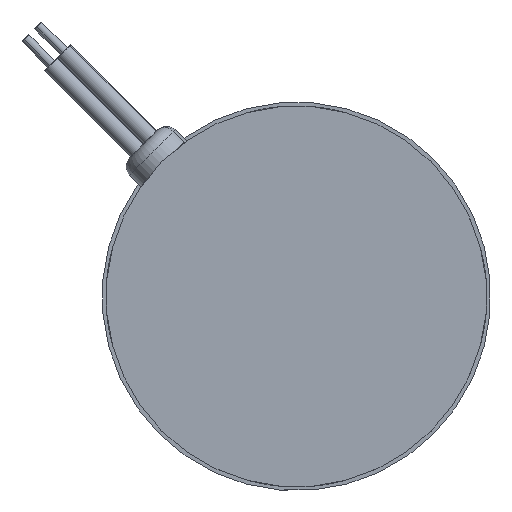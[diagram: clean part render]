
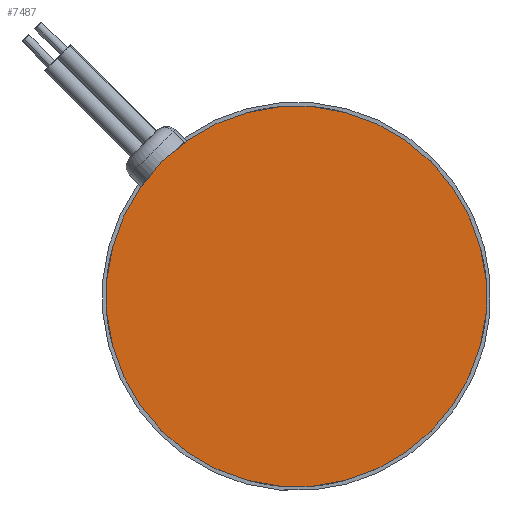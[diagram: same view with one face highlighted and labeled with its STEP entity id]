
A CAD part, left-side view. The second image highlights one B-rep face of the part: STEP entity #7487.
In plain terms, the highlighted planar face has unit normal (-1, 0, 0).
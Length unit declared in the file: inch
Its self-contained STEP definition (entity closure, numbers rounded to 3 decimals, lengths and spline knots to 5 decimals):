
#299 = ORIENTED_EDGE ( 'NONE', *, *, #1180, .F. ) ;
#365 = DIRECTION ( 'NONE',  ( 1., 0., 0. ) ) ;
#403 = VERTEX_POINT ( 'NONE', #10008 ) ;
#1180 = EDGE_CURVE ( 'NONE', #403, #8627, #3593, .T. ) ;
#1782 = FACE_OUTER_BOUND ( 'NONE', #6312, .T. ) ;
#1828 = DIRECTION ( 'NONE',  ( 0., -0.707, 0.707 ) ) ;
#3041 = CARTESIAN_POINT ( 'NONE',  ( -0.32797, 3.51222, 4.67391 ) ) ;
#3593 = CIRCLE ( 'NONE', #4419, 1.5624 ) ;
#3734 = DIRECTION ( 'NONE',  ( 1., 0., 0. ) ) ;
#3831 = CARTESIAN_POINT ( 'NONE',  ( -0.32797, 3.51222, 4.67391 ) ) ;
#4419 = AXIS2_PLACEMENT_3D ( 'NONE', #3041, #6045, #9840 ) ;
#4792 = CARTESIAN_POINT ( 'NONE',  ( -0.32797, 2.40744, 5.7787 ) ) ;
#5084 = ORIENTED_EDGE ( 'NONE', *, *, #6083, .F. ) ;
#5212 = AXIS2_PLACEMENT_3D ( 'NONE', #3831, #3734, #9909 ) ;
#5800 = AXIS2_PLACEMENT_3D ( 'NONE', #9552, #365, #1828 ) ;
#6045 = DIRECTION ( 'NONE',  ( 1., 0., 0. ) ) ;
#6083 = EDGE_CURVE ( 'NONE', #8627, #403, #6856, .T. ) ;
#6312 = EDGE_LOOP ( 'NONE', ( #299, #5084 ) ) ;
#6856 = CIRCLE ( 'NONE', #5212, 1.5624 ) ;
#7487 = ADVANCED_FACE ( 'NONE', ( #1782 ), #8801, .F. ) ;
#8627 = VERTEX_POINT ( 'NONE', #4792 ) ;
#8801 = PLANE ( 'NONE',  #5800 ) ;
#9552 = CARTESIAN_POINT ( 'NONE',  ( -0.32797, 3.51222, 4.67391 ) ) ;
#9840 = DIRECTION ( 'NONE',  ( 0., -0.707, 0.707 ) ) ;
#9909 = DIRECTION ( 'NONE',  ( 0., -0.707, 0.707 ) ) ;
#10008 = CARTESIAN_POINT ( 'NONE',  ( -0.32797, 4.61701, 3.56913 ) ) ;
